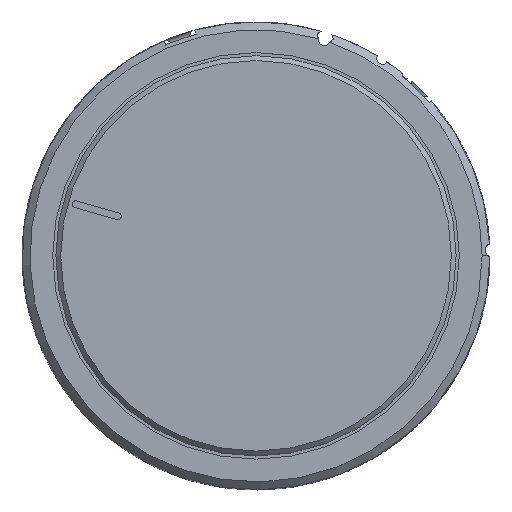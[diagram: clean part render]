
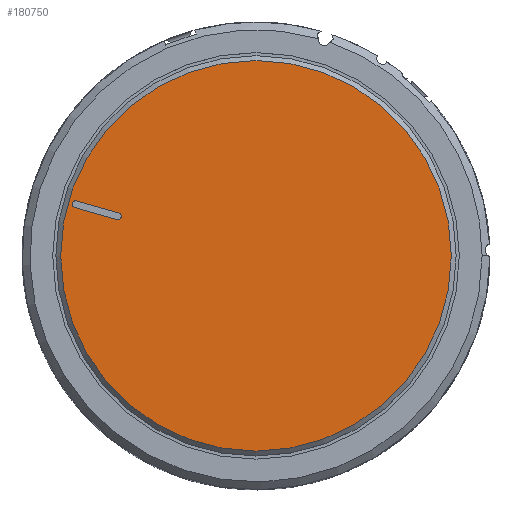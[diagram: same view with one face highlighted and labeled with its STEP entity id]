
A CAD part, top view. The second image highlights one B-rep face of the part: STEP entity #180750.
In plain terms, the highlighted planar face has unit normal (0, 0, 1).
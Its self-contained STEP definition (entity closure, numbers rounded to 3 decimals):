
#180683 = CONICAL_SURFACE('',#180684,10.27,0.785);
#180684 = AXIS2_PLACEMENT_3D('',#180685,#180686,#180687);
#180685 = CARTESIAN_POINT('',(0.,0.,7.88));
#180686 = DIRECTION('',(-0.,-0.,-1.));
#180687 = DIRECTION('',(1.,0.,-0.));
#180701 = VERTEX_POINT('',#180702);
#180702 = CARTESIAN_POINT('',(10.02,0.,8.13));
#180723 = EDGE_CURVE('',#180701,#180701,#180724,.T.);
#180724 = SURFACE_CURVE('',#180725,(#180730,#180737),.PCURVE_S1.);
#180725 = CIRCLE('',#180726,10.02);
#180726 = AXIS2_PLACEMENT_3D('',#180727,#180728,#180729);
#180727 = CARTESIAN_POINT('',(0.,0.,8.13));
#180728 = DIRECTION('',(0.,0.,1.));
#180729 = DIRECTION('',(1.,0.,-0.));
#180730 = PCURVE('',#180683,#180731);
#180731 = DEFINITIONAL_REPRESENTATION('',(#180732),#180736);
#180732 = LINE('',#180733,#180734);
#180733 = CARTESIAN_POINT('',(-0.,-0.25));
#180734 = VECTOR('',#180735,1.);
#180735 = DIRECTION('',(-1.,-0.));
#180736 = ( GEOMETRIC_REPRESENTATION_CONTEXT(2) 
PARAMETRIC_REPRESENTATION_CONTEXT() REPRESENTATION_CONTEXT('2D SPACE',''
  ) );
#180737 = PCURVE('',#180738,#180743);
#180738 = PLANE('',#180739);
#180739 = AXIS2_PLACEMENT_3D('',#180740,#180741,#180742);
#180740 = CARTESIAN_POINT('',(0.,0.,8.13));
#180741 = DIRECTION('',(0.,0.,1.));
#180742 = DIRECTION('',(1.,0.,-0.));
#180743 = DEFINITIONAL_REPRESENTATION('',(#180744),#180748);
#180744 = CIRCLE('',#180745,10.02);
#180745 = AXIS2_PLACEMENT_2D('',#180746,#180747);
#180746 = CARTESIAN_POINT('',(0.,0.));
#180747 = DIRECTION('',(1.,0.));
#180748 = ( GEOMETRIC_REPRESENTATION_CONTEXT(2) 
PARAMETRIC_REPRESENTATION_CONTEXT() REPRESENTATION_CONTEXT('2D SPACE',''
  ) );
#180750 = ADVANCED_FACE('',(#180751,#180754),#180738,.T.);
#180751 = FACE_BOUND('',#180752,.T.);
#180752 = EDGE_LOOP('',(#180753));
#180753 = ORIENTED_EDGE('',*,*,#180723,.T.);
#180754 = FACE_BOUND('',#180755,.T.);
#180755 = EDGE_LOOP('',(#180756,#180784,#180817,#180843));
#180756 = ORIENTED_EDGE('',*,*,#180757,.F.);
#180757 = EDGE_CURVE('',#180758,#180760,#180762,.T.);
#180758 = VERTEX_POINT('',#180759);
#180759 = CARTESIAN_POINT('',(-9.3,2.485,8.13));
#180760 = VERTEX_POINT('',#180761);
#180761 = CARTESIAN_POINT('',(-7.138,1.865,8.13));
#180762 = SURFACE_CURVE('',#180763,(#180767,#180773),.PCURVE_S1.);
#180763 = LINE('',#180764,#180765);
#180764 = CARTESIAN_POINT('',(-3.593,0.848,8.13));
#180765 = VECTOR('',#180766,1.);
#180766 = DIRECTION('',(0.961,-0.276,0.));
#180767 = PCURVE('',#180738,#180768);
#180768 = DEFINITIONAL_REPRESENTATION('',(#180769),#180772);
#180769 = B_SPLINE_CURVE_WITH_KNOTS('',1,(#180770,#180771),
  .UNSPECIFIED.,.F.,.F.,(2,2),(-5.938,-3.688),
  .PIECEWISE_BEZIER_KNOTS.);
#180770 = CARTESIAN_POINT('',(-9.3,2.485));
#180771 = CARTESIAN_POINT('',(-7.138,1.865));
#180772 = ( GEOMETRIC_REPRESENTATION_CONTEXT(2) 
PARAMETRIC_REPRESENTATION_CONTEXT() REPRESENTATION_CONTEXT('2D SPACE',''
  ) );
#180773 = PCURVE('',#180774,#180779);
#180774 = PLANE('',#180775);
#180775 = AXIS2_PLACEMENT_3D('',#180776,#180777,#180778);
#180776 = CARTESIAN_POINT('',(-7.138,1.865,7.98));
#180777 = DIRECTION('',(-0.276,-0.961,0.));
#180778 = DIRECTION('',(-0.961,0.276,0.));
#180779 = DEFINITIONAL_REPRESENTATION('',(#180780),#180783);
#180780 = B_SPLINE_CURVE_WITH_KNOTS('',1,(#180781,#180782),
  .UNSPECIFIED.,.F.,.F.,(2,2),(-5.938,-3.688),
  .PIECEWISE_BEZIER_KNOTS.);
#180781 = CARTESIAN_POINT('',(2.25,-0.15));
#180782 = CARTESIAN_POINT('',(0.,-0.15));
#180783 = ( GEOMETRIC_REPRESENTATION_CONTEXT(2) 
PARAMETRIC_REPRESENTATION_CONTEXT() REPRESENTATION_CONTEXT('2D SPACE',''
  ) );
#180784 = ORIENTED_EDGE('',*,*,#180785,.T.);
#180785 = EDGE_CURVE('',#180758,#180786,#180788,.T.);
#180786 = VERTEX_POINT('',#180787);
#180787 = CARTESIAN_POINT('',(-9.204,2.821,8.13));
#180788 = SURFACE_CURVE('',#180789,(#180794,#180805),.PCURVE_S1.);
#180789 = CIRCLE('',#180790,0.175);
#180790 = AXIS2_PLACEMENT_3D('',#180791,#180792,#180793);
#180791 = CARTESIAN_POINT('',(-9.252,2.653,8.13));
#180792 = DIRECTION('',(0.,-0.,-1.));
#180793 = DIRECTION('',(0.961,-0.276,0.));
#180794 = PCURVE('',#180738,#180795);
#180795 = DEFINITIONAL_REPRESENTATION('',(#180796),#180804);
#180796 = ( BOUNDED_CURVE() B_SPLINE_CURVE(2,(#180797,#180798,#180799,
    #180800,#180801,#180802,#180803),.UNSPECIFIED.,.T.,.F.) 
B_SPLINE_CURVE_WITH_KNOTS((1,2,2,2,2,1),(-2.094,0.,
    2.094,4.189,6.283,8.378),
.UNSPECIFIED.) CURVE() GEOMETRIC_REPRESENTATION_ITEM() 
RATIONAL_B_SPLINE_CURVE((1.,0.5,1.,0.5,1.,0.5,1.)) REPRESENTATION_ITEM(
  '') );
#180797 = CARTESIAN_POINT('',(-9.084,2.605));
#180798 = CARTESIAN_POINT('',(-9.167,2.313));
#180799 = CARTESIAN_POINT('',(-9.378,2.531));
#180800 = CARTESIAN_POINT('',(-9.589,2.749));
#180801 = CARTESIAN_POINT('',(-9.294,2.823));
#180802 = CARTESIAN_POINT('',(-9.,2.896));
#180803 = CARTESIAN_POINT('',(-9.084,2.605));
#180804 = ( GEOMETRIC_REPRESENTATION_CONTEXT(2) 
PARAMETRIC_REPRESENTATION_CONTEXT() REPRESENTATION_CONTEXT('2D SPACE',''
  ) );
#180805 = PCURVE('',#180806,#180811);
#180806 = CYLINDRICAL_SURFACE('',#180807,0.175);
#180807 = AXIS2_PLACEMENT_3D('',#180808,#180809,#180810);
#180808 = CARTESIAN_POINT('',(-9.252,2.653,7.98));
#180809 = DIRECTION('',(0.,-0.,-1.));
#180810 = DIRECTION('',(0.961,-0.276,0.));
#180811 = DEFINITIONAL_REPRESENTATION('',(#180812),#180816);
#180812 = LINE('',#180813,#180814);
#180813 = CARTESIAN_POINT('',(0.,-0.15));
#180814 = VECTOR('',#180815,1.);
#180815 = DIRECTION('',(1.,0.));
#180816 = ( GEOMETRIC_REPRESENTATION_CONTEXT(2) 
PARAMETRIC_REPRESENTATION_CONTEXT() REPRESENTATION_CONTEXT('2D SPACE',''
  ) );
#180817 = ORIENTED_EDGE('',*,*,#180818,.T.);
#180818 = EDGE_CURVE('',#180786,#180819,#180821,.T.);
#180819 = VERTEX_POINT('',#180820);
#180820 = CARTESIAN_POINT('',(-7.041,2.201,8.13));
#180821 = SURFACE_CURVE('',#180822,(#180826,#180832),.PCURVE_S1.);
#180822 = LINE('',#180823,#180824);
#180823 = CARTESIAN_POINT('',(-4.037,1.34,8.13));
#180824 = VECTOR('',#180825,1.);
#180825 = DIRECTION('',(0.961,-0.276,0.));
#180826 = PCURVE('',#180738,#180827);
#180827 = DEFINITIONAL_REPRESENTATION('',(#180828),#180831);
#180828 = B_SPLINE_CURVE_WITH_KNOTS('',1,(#180829,#180830),
  .UNSPECIFIED.,.F.,.F.,(2,2),(-5.375,-3.125),.PIECEWISE_BEZIER_KNOTS.);
#180829 = CARTESIAN_POINT('',(-9.204,2.821));
#180830 = CARTESIAN_POINT('',(-7.041,2.201));
#180831 = ( GEOMETRIC_REPRESENTATION_CONTEXT(2) 
PARAMETRIC_REPRESENTATION_CONTEXT() REPRESENTATION_CONTEXT('2D SPACE',''
  ) );
#180832 = PCURVE('',#180833,#180838);
#180833 = PLANE('',#180834);
#180834 = AXIS2_PLACEMENT_3D('',#180835,#180836,#180837);
#180835 = CARTESIAN_POINT('',(-8.122,2.511,7.98));
#180836 = DIRECTION('',(-0.276,-0.961,0.));
#180837 = DIRECTION('',(-0.961,0.276,0.));
#180838 = DEFINITIONAL_REPRESENTATION('',(#180839),#180842);
#180839 = B_SPLINE_CURVE_WITH_KNOTS('',1,(#180840,#180841),
  .UNSPECIFIED.,.F.,.F.,(2,2),(-5.375,-3.125),.PIECEWISE_BEZIER_KNOTS.);
#180840 = CARTESIAN_POINT('',(1.125,-0.15));
#180841 = CARTESIAN_POINT('',(-1.125,-0.15));
#180842 = ( GEOMETRIC_REPRESENTATION_CONTEXT(2) 
PARAMETRIC_REPRESENTATION_CONTEXT() REPRESENTATION_CONTEXT('2D SPACE',''
  ) );
#180843 = ORIENTED_EDGE('',*,*,#180844,.T.);
#180844 = EDGE_CURVE('',#180819,#180760,#180845,.T.);
#180845 = SURFACE_CURVE('',#180846,(#180851,#180862),.PCURVE_S1.);
#180846 = CIRCLE('',#180847,0.175);
#180847 = AXIS2_PLACEMENT_3D('',#180848,#180849,#180850);
#180848 = CARTESIAN_POINT('',(-7.089,2.033,8.13));
#180849 = DIRECTION('',(0.,0.,-1.));
#180850 = DIRECTION('',(-0.961,0.276,0.));
#180851 = PCURVE('',#180738,#180852);
#180852 = DEFINITIONAL_REPRESENTATION('',(#180853),#180861);
#180853 = ( BOUNDED_CURVE() B_SPLINE_CURVE(2,(#180854,#180855,#180856,
    #180857,#180858,#180859,#180860),.UNSPECIFIED.,.T.,.F.) 
B_SPLINE_CURVE_WITH_KNOTS((1,2,2,2,2,1),(-2.094,0.,
    2.094,4.189,6.283,8.378),
.UNSPECIFIED.) CURVE() GEOMETRIC_REPRESENTATION_ITEM() 
RATIONAL_B_SPLINE_CURVE((1.,0.5,1.,0.5,1.,0.5,1.)) REPRESENTATION_ITEM(
  '') );
#180854 = CARTESIAN_POINT('',(-7.258,2.081));
#180855 = CARTESIAN_POINT('',(-7.174,2.372));
#180856 = CARTESIAN_POINT('',(-6.963,2.154));
#180857 = CARTESIAN_POINT('',(-6.753,1.936));
#180858 = CARTESIAN_POINT('',(-7.047,1.863));
#180859 = CARTESIAN_POINT('',(-7.341,1.79));
#180860 = CARTESIAN_POINT('',(-7.258,2.081));
#180861 = ( GEOMETRIC_REPRESENTATION_CONTEXT(2) 
PARAMETRIC_REPRESENTATION_CONTEXT() REPRESENTATION_CONTEXT('2D SPACE',''
  ) );
#180862 = PCURVE('',#180863,#180868);
#180863 = CYLINDRICAL_SURFACE('',#180864,0.175);
#180864 = AXIS2_PLACEMENT_3D('',#180865,#180866,#180867);
#180865 = CARTESIAN_POINT('',(-7.089,2.033,7.98));
#180866 = DIRECTION('',(0.,0.,-1.));
#180867 = DIRECTION('',(-0.961,0.276,0.));
#180868 = DEFINITIONAL_REPRESENTATION('',(#180869),#180873);
#180869 = LINE('',#180870,#180871);
#180870 = CARTESIAN_POINT('',(0.,-0.15));
#180871 = VECTOR('',#180872,1.);
#180872 = DIRECTION('',(1.,0.));
#180873 = ( GEOMETRIC_REPRESENTATION_CONTEXT(2) 
PARAMETRIC_REPRESENTATION_CONTEXT() REPRESENTATION_CONTEXT('2D SPACE',''
  ) );
